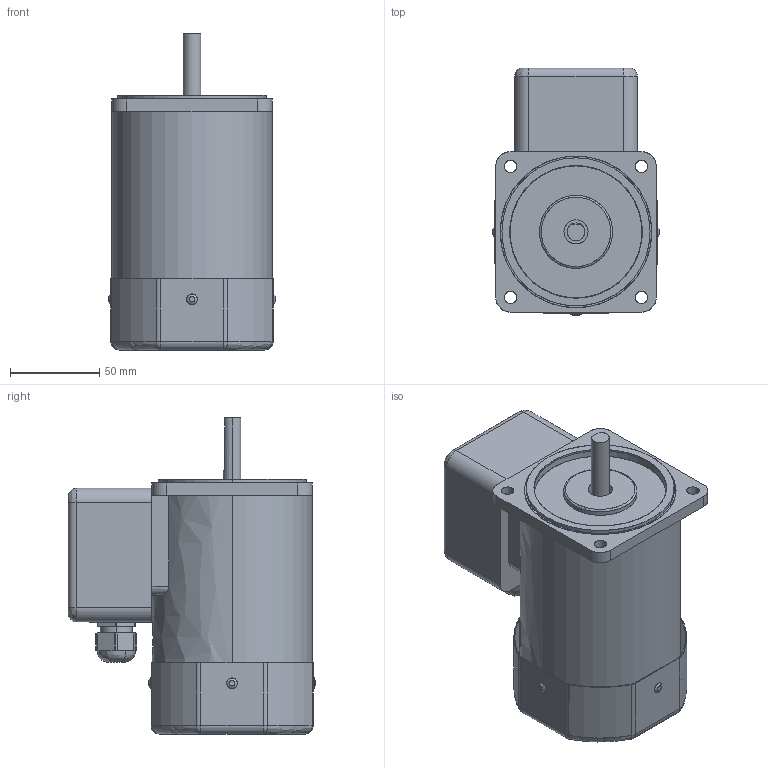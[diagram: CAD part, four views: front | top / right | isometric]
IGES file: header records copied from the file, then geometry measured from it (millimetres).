
Start section: SolidWorks IGES file using analytic representation for surfaces
Bounding box: 94 x 139 x 177.5 mm (x, y, z)
Surface area: 160954.7 mm2 (no closed solid volume)
Topology: 0 solids, 0 shells, 304 faces, 4810 edges, 4794 vertices
Faces by surface type: bspline 170, revolution 134
